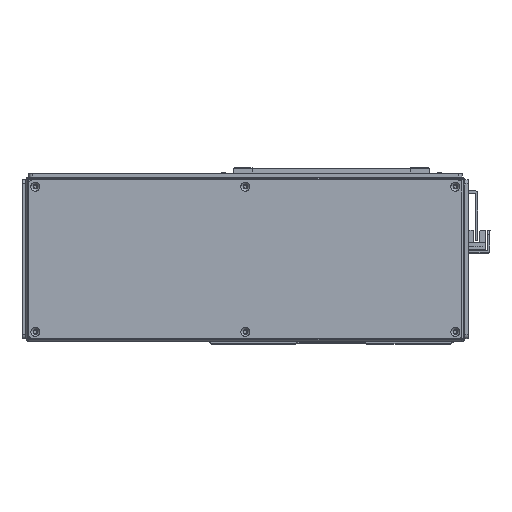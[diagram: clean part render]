
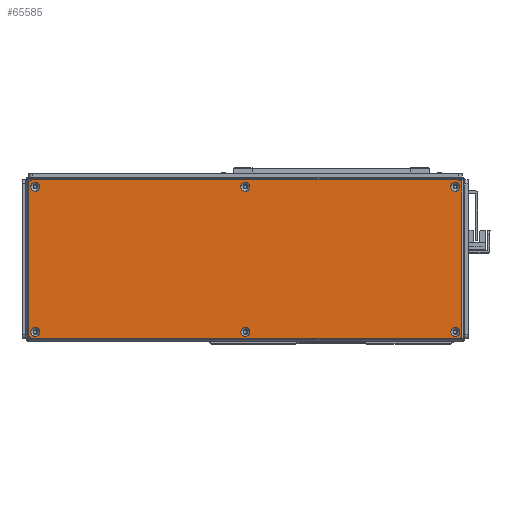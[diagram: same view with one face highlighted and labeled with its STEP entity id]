
A CAD part, top view. The second image highlights one B-rep face of the part: STEP entity #65585.
In plain terms, the highlighted planar face has unit normal (0, 0, 1) as drawn and (0, -1, 0) by its records, which use the part's own axes.
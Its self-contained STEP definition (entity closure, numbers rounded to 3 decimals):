
#1158=FACE_BOUND('',#9752,.T.);
#1159=FACE_BOUND('',#9753,.T.);
#1160=FACE_BOUND('',#9754,.T.);
#1161=FACE_BOUND('',#9755,.T.);
#1162=FACE_BOUND('',#9756,.T.);
#1163=FACE_BOUND('',#9757,.T.);
#1988=PLANE('',#70663);
#5912=FACE_OUTER_BOUND('',#9751,.T.);
#9751=EDGE_LOOP('',(#51441,#51442,#51443,#51444,#51445,#51446,#51447,#51448));
#9752=EDGE_LOOP('',(#51449));
#9753=EDGE_LOOP('',(#51450));
#9754=EDGE_LOOP('',(#51451));
#9755=EDGE_LOOP('',(#51452));
#9756=EDGE_LOOP('',(#51453));
#9757=EDGE_LOOP('',(#51454));
#14205=LINE('',#98498,#22029);
#14206=LINE('',#98502,#22030);
#14207=LINE('',#98506,#22031);
#14208=LINE('',#98509,#22032);
#22029=VECTOR('',#80029,10.);
#22030=VECTOR('',#80032,10.);
#22031=VECTOR('',#80035,10.);
#22032=VECTOR('',#80038,10.);
#28943=CIRCLE('',#70631,3.45);
#28946=CIRCLE('',#70636,3.45);
#28949=CIRCLE('',#70641,3.45);
#28952=CIRCLE('',#70646,3.45);
#28955=CIRCLE('',#70651,3.45);
#28958=CIRCLE('',#70656,3.45);
#28961=CIRCLE('',#70661,3.);
#28963=CIRCLE('',#70664,3.);
#28964=CIRCLE('',#70665,3.);
#28965=CIRCLE('',#70666,3.);
#31437=VERTEX_POINT('',#98428);
#31440=VERTEX_POINT('',#98438);
#31443=VERTEX_POINT('',#98448);
#31446=VERTEX_POINT('',#98458);
#31449=VERTEX_POINT('',#98468);
#31452=VERTEX_POINT('',#98478);
#31455=VERTEX_POINT('',#98488);
#31456=VERTEX_POINT('',#98489);
#31459=VERTEX_POINT('',#98497);
#31460=VERTEX_POINT('',#98499);
#31461=VERTEX_POINT('',#98501);
#31462=VERTEX_POINT('',#98503);
#31463=VERTEX_POINT('',#98505);
#31464=VERTEX_POINT('',#98507);
#38788=EDGE_CURVE('',#31437,#31437,#28943,.T.);
#38793=EDGE_CURVE('',#31440,#31440,#28946,.T.);
#38798=EDGE_CURVE('',#31443,#31443,#28949,.T.);
#38803=EDGE_CURVE('',#31446,#31446,#28952,.T.);
#38808=EDGE_CURVE('',#31449,#31449,#28955,.T.);
#38813=EDGE_CURVE('',#31452,#31452,#28958,.T.);
#38818=EDGE_CURVE('',#31455,#31456,#28961,.T.);
#38822=EDGE_CURVE('',#31455,#31459,#14205,.T.);
#38823=EDGE_CURVE('',#31460,#31459,#28963,.T.);
#38824=EDGE_CURVE('',#31460,#31461,#14206,.T.);
#38825=EDGE_CURVE('',#31462,#31461,#28964,.T.);
#38826=EDGE_CURVE('',#31462,#31463,#14207,.T.);
#38827=EDGE_CURVE('',#31464,#31463,#28965,.T.);
#38828=EDGE_CURVE('',#31464,#31456,#14208,.T.);
#51441=ORIENTED_EDGE('',*,*,#38818,.F.);
#51442=ORIENTED_EDGE('',*,*,#38822,.T.);
#51443=ORIENTED_EDGE('',*,*,#38823,.F.);
#51444=ORIENTED_EDGE('',*,*,#38824,.T.);
#51445=ORIENTED_EDGE('',*,*,#38825,.F.);
#51446=ORIENTED_EDGE('',*,*,#38826,.T.);
#51447=ORIENTED_EDGE('',*,*,#38827,.F.);
#51448=ORIENTED_EDGE('',*,*,#38828,.T.);
#51449=ORIENTED_EDGE('',*,*,#38788,.T.);
#51450=ORIENTED_EDGE('',*,*,#38793,.T.);
#51451=ORIENTED_EDGE('',*,*,#38798,.T.);
#51452=ORIENTED_EDGE('',*,*,#38803,.T.);
#51453=ORIENTED_EDGE('',*,*,#38808,.T.);
#51454=ORIENTED_EDGE('',*,*,#38813,.T.);
#65585=ADVANCED_FACE('',(#5912,#1158,#1159,#1160,#1161,#1162,#1163),#1988,
 .T.);
#70631=AXIS2_PLACEMENT_3D('',#98429,#79949,#79950);
#70636=AXIS2_PLACEMENT_3D('',#98439,#79961,#79962);
#70641=AXIS2_PLACEMENT_3D('',#98449,#79973,#79974);
#70646=AXIS2_PLACEMENT_3D('',#98459,#79985,#79986);
#70651=AXIS2_PLACEMENT_3D('',#98469,#79997,#79998);
#70656=AXIS2_PLACEMENT_3D('',#98479,#80009,#80010);
#70661=AXIS2_PLACEMENT_3D('',#98490,#80021,#80022);
#70663=AXIS2_PLACEMENT_3D('',#98496,#80027,#80028);
#70664=AXIS2_PLACEMENT_3D('',#98500,#80030,#80031);
#70665=AXIS2_PLACEMENT_3D('',#98504,#80033,#80034);
#70666=AXIS2_PLACEMENT_3D('',#98508,#80036,#80037);
#79949=DIRECTION('center_axis',(0.,1.,0.));
#79950=DIRECTION('ref_axis',(1.,0.,0.));
#79961=DIRECTION('center_axis',(0.,1.,0.));
#79962=DIRECTION('ref_axis',(1.,0.,0.));
#79973=DIRECTION('center_axis',(0.,1.,0.));
#79974=DIRECTION('ref_axis',(1.,0.,0.));
#79985=DIRECTION('center_axis',(0.,1.,0.));
#79986=DIRECTION('ref_axis',(1.,0.,0.));
#79997=DIRECTION('center_axis',(0.,1.,0.));
#79998=DIRECTION('ref_axis',(1.,0.,0.));
#80009=DIRECTION('center_axis',(0.,1.,0.));
#80010=DIRECTION('ref_axis',(1.,0.,0.));
#80021=DIRECTION('center_axis',(0.,1.,0.));
#80022=DIRECTION('ref_axis',(-0.707,0.,0.707));
#80027=DIRECTION('center_axis',(0.,-1.,0.));
#80028=DIRECTION('ref_axis',(0.,0.,-1.));
#80029=DIRECTION('',(0.,0.,-1.));
#80030=DIRECTION('center_axis',(0.,1.,0.));
#80031=DIRECTION('ref_axis',(-0.707,0.,-0.707));
#80032=DIRECTION('',(1.,0.,0.));
#80033=DIRECTION('center_axis',(0.,1.,0.));
#80034=DIRECTION('ref_axis',(0.707,0.,-0.707));
#80035=DIRECTION('',(0.,0.,1.));
#80036=DIRECTION('center_axis',(0.,1.,0.));
#80037=DIRECTION('ref_axis',(0.707,0.,0.707));
#80038=DIRECTION('',(-1.,0.,0.));
#98428=CARTESIAN_POINT('',(154.05,-1.5,54.5));
#98429=CARTESIAN_POINT('Origin',(157.5,-1.5,54.5));
#98438=CARTESIAN_POINT('',(-3.45,-1.5,54.5));
#98439=CARTESIAN_POINT('Origin',(0.,-1.5,54.5));
#98448=CARTESIAN_POINT('',(-160.95,-1.5,54.5));
#98449=CARTESIAN_POINT('Origin',(-157.5,-1.5,54.5));
#98458=CARTESIAN_POINT('',(-160.95,-1.5,-54.5));
#98459=CARTESIAN_POINT('Origin',(-157.5,-1.5,-54.5));
#98468=CARTESIAN_POINT('',(-3.45,-1.5,-54.5));
#98469=CARTESIAN_POINT('Origin',(0.,-1.5,-54.5));
#98478=CARTESIAN_POINT('',(154.05,-1.5,-54.5));
#98479=CARTESIAN_POINT('Origin',(157.5,-1.5,-54.5));
#98488=CARTESIAN_POINT('',(-162.5,-1.5,56.5));
#98489=CARTESIAN_POINT('',(-159.5,-1.5,59.5));
#98490=CARTESIAN_POINT('Origin',(-159.5,-1.5,56.5));
#98496=CARTESIAN_POINT('Origin',(0.,-1.5,0.));
#98497=CARTESIAN_POINT('',(-162.5,-1.5,-56.5));
#98498=CARTESIAN_POINT('',(-162.5,-1.5,59.5));
#98499=CARTESIAN_POINT('',(-159.5,-1.5,-59.5));
#98500=CARTESIAN_POINT('Origin',(-159.5,-1.5,-56.5));
#98501=CARTESIAN_POINT('',(159.5,-1.5,-59.5));
#98502=CARTESIAN_POINT('',(-162.5,-1.5,-59.5));
#98503=CARTESIAN_POINT('',(162.5,-1.5,-56.5));
#98504=CARTESIAN_POINT('Origin',(159.5,-1.5,-56.5));
#98505=CARTESIAN_POINT('',(162.5,-1.5,56.5));
#98506=CARTESIAN_POINT('',(162.5,-1.5,-59.5));
#98507=CARTESIAN_POINT('',(159.5,-1.5,59.5));
#98508=CARTESIAN_POINT('Origin',(159.5,-1.5,56.5));
#98509=CARTESIAN_POINT('',(162.5,-1.5,59.5));
